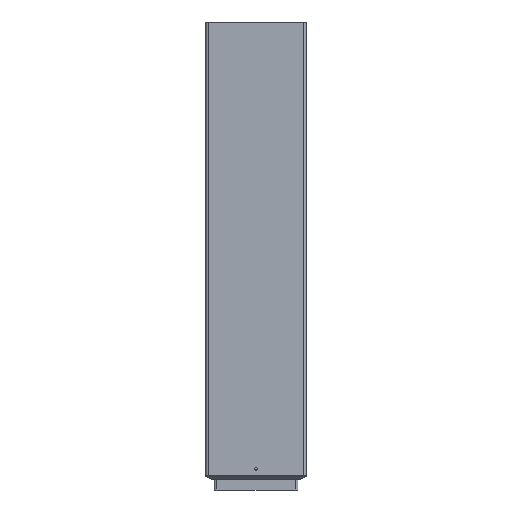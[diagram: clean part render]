
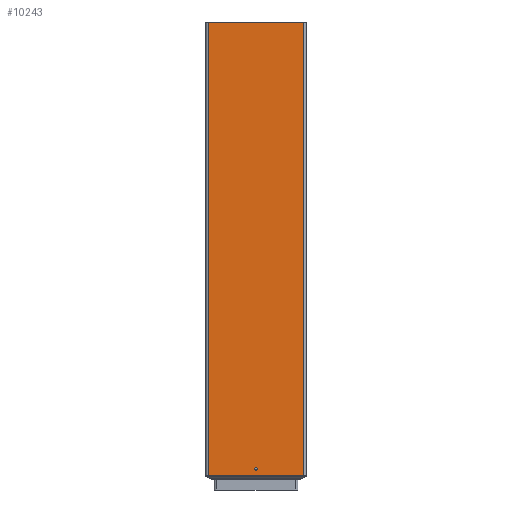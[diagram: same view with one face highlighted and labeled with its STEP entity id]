
A CAD part, left-side view. The second image highlights one B-rep face of the part: STEP entity #10243.
In plain terms, the highlighted planar face has unit normal (-1, 0, 0).
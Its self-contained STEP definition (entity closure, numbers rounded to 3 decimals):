
#106 = DIRECTION ( 'NONE',  ( 1., 0., 0. ) ) ;
#122 = VERTEX_POINT ( 'NONE', #6434 ) ;
#242 = EDGE_CURVE ( 'NONE', #13344, #3134, #12175, .T. ) ;
#1176 = DIRECTION ( 'NONE',  ( 1., 0., 0. ) ) ;
#1244 = LINE ( 'NONE', #2688, #10175 ) ;
#1356 = LINE ( 'NONE', #7834, #11899 ) ;
#2085 = CARTESIAN_POINT ( 'NONE',  ( -35., -15., -60.4 ) ) ;
#2124 = DIRECTION ( 'NONE',  ( 0., 0., -1. ) ) ;
#2214 = LINE ( 'NONE', #11917, #5288 ) ;
#2688 = CARTESIAN_POINT ( 'NONE',  ( -35., 42., 470.5 ) ) ;
#3116 = LINE ( 'NONE', #11962, #14786 ) ;
#3134 = VERTEX_POINT ( 'NONE', #2085 ) ;
#3554 = CARTESIAN_POINT ( 'NONE',  ( -35., -15., -63.6 ) ) ;
#3685 = CARTESIAN_POINT ( 'NONE',  ( -35., -72., -69.5 ) ) ;
#4398 = AXIS2_PLACEMENT_3D ( 'NONE', #8629, #1176, #2124 ) ;
#4994 = DIRECTION ( 'NONE',  ( 0., 0., -1. ) ) ;
#5232 = ORIENTED_EDGE ( 'NONE', *, *, #7211, .F. ) ;
#5288 = VECTOR ( 'NONE', #8420, 1000. ) ;
#5367 = EDGE_LOOP ( 'NONE', ( #11725, #5232, #14306, #11011 ) ) ;
#5578 = VERTEX_POINT ( 'NONE', #3685 ) ;
#6008 = DIRECTION ( 'NONE',  ( 1., 0., 0. ) ) ;
#6434 = CARTESIAN_POINT ( 'NONE',  ( -35., 42., 470.5 ) ) ;
#6856 = CARTESIAN_POINT ( 'NONE',  ( -35., -72., 470.5 ) ) ;
#7095 = DIRECTION ( 'NONE',  ( 0., 0., -1. ) ) ;
#7211 = EDGE_CURVE ( 'NONE', #12147, #5578, #3116, .T. ) ;
#7289 = VERTEX_POINT ( 'NONE', #13017 ) ;
#7774 = DIRECTION ( 'NONE',  ( 0., -1., 0. ) ) ;
#7834 = CARTESIAN_POINT ( 'NONE',  ( -35., -72., 470.5 ) ) ;
#7944 = FACE_OUTER_BOUND ( 'NONE', #5367, .T. ) ;
#8261 = CARTESIAN_POINT ( 'NONE',  ( -35., -15., -62. ) ) ;
#8420 = DIRECTION ( 'NONE',  ( 0., -1., 0. ) ) ;
#8629 = CARTESIAN_POINT ( 'NONE',  ( -35., -15., -62. ) ) ;
#9093 = EDGE_CURVE ( 'NONE', #122, #7289, #1244, .T. ) ;
#9189 = EDGE_CURVE ( 'NONE', #3134, #13344, #11967, .T. ) ;
#10175 = VECTOR ( 'NONE', #14331, 1000. ) ;
#10243 = ADVANCED_FACE ( 'NONE', ( #11012, #7944 ), #11519, .F. ) ;
#10438 = EDGE_CURVE ( 'NONE', #122, #12147, #1356, .T. ) ;
#11011 = ORIENTED_EDGE ( 'NONE', *, *, #9093, .T. ) ;
#11012 = FACE_BOUND ( 'NONE', #13488, .T. ) ;
#11070 = ORIENTED_EDGE ( 'NONE', *, *, #9189, .T. ) ;
#11519 = PLANE ( 'NONE',  #14220 ) ;
#11673 = EDGE_CURVE ( 'NONE', #7289, #5578, #2214, .T. ) ;
#11725 = ORIENTED_EDGE ( 'NONE', *, *, #11673, .T. ) ;
#11899 = VECTOR ( 'NONE', #7774, 1000. ) ;
#11917 = CARTESIAN_POINT ( 'NONE',  ( -35., -72., -69.5 ) ) ;
#11962 = CARTESIAN_POINT ( 'NONE',  ( -35., -72., 470.5 ) ) ;
#11967 = CIRCLE ( 'NONE', #13090, 1.6 ) ;
#12147 = VERTEX_POINT ( 'NONE', #6856 ) ;
#12175 = CIRCLE ( 'NONE', #4398, 1.6 ) ;
#12463 = ORIENTED_EDGE ( 'NONE', *, *, #242, .T. ) ;
#12936 = DIRECTION ( 'NONE',  ( 0., 0., -1. ) ) ;
#13017 = CARTESIAN_POINT ( 'NONE',  ( -35., 42., -69.5 ) ) ;
#13090 = AXIS2_PLACEMENT_3D ( 'NONE', #8261, #106, #7095 ) ;
#13344 = VERTEX_POINT ( 'NONE', #3554 ) ;
#13488 = EDGE_LOOP ( 'NONE', ( #11070, #12463 ) ) ;
#14140 = CARTESIAN_POINT ( 'NONE',  ( -35., -72., 470.5 ) ) ;
#14220 = AXIS2_PLACEMENT_3D ( 'NONE', #14140, #6008, #12936 ) ;
#14306 = ORIENTED_EDGE ( 'NONE', *, *, #10438, .F. ) ;
#14331 = DIRECTION ( 'NONE',  ( 0., 0., -1. ) ) ;
#14786 = VECTOR ( 'NONE', #4994, 1000. ) ;
